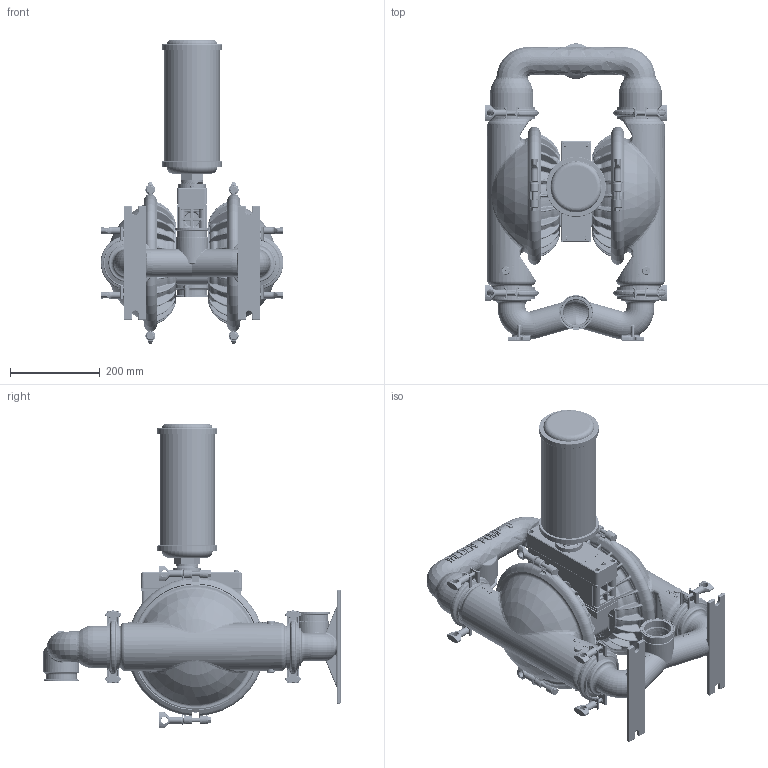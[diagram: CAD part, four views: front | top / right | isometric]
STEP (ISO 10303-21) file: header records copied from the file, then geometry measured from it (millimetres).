
FILE_DESCRIPTION((''),'2;1');
FILE_NAME('PS8_SS_FDA_TOP_SW0001','2013-06-10T',('Bill.Watson'),(''),'PRO/ENGINEER BY PARAMETRIC TECHNOLOGY CORPORATION, 2011180','PRO/ENGINEER BY PARAMETRIC TECHNOLOGY CORPORATION, 2011180','');
FILE_SCHEMA(('CONFIG_CONTROL_DESIGN'));
Length unit declared in the file: inch
Products named in the file (1): PS8_SS_FDA_TOP_SW0001
Bounding box: 407.71 x 662.76 x 678.62 mm (x, y, z)
Volume: 11898038.5 mm3; surface area: 2544709.1 mm2
Topology: 14 solids, 20 shells, 19856 faces, 53075 edges, 34075 vertices
Faces by surface type: plane 13140, bspline 2387, cylinder 2110, torus 1244, cone 675, sphere 300
Entity records: 1071552 total; most frequent: CARTESIAN_POINT 601651, ORIENTED_EDGE 106046, DIRECTION 85213, EDGE_CURVE 53023, VERTEX_POINT 34075, VECTOR 32483, LINE 32483, AXIS2_PLACEMENT_3D 26365
